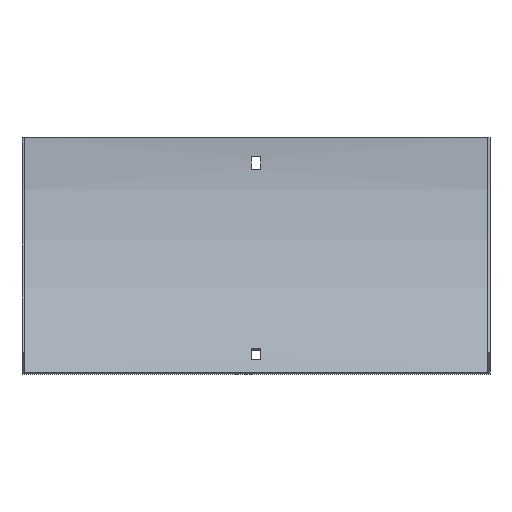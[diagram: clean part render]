
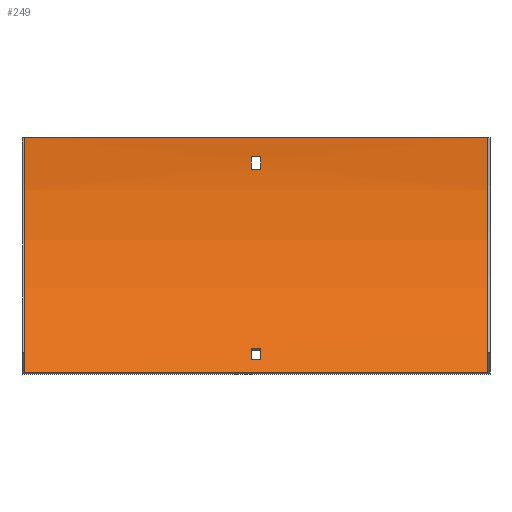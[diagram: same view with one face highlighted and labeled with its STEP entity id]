
A CAD part, front view. The second image highlights one B-rep face of the part: STEP entity #249.
In plain terms, the highlighted cylindrical face has radius 217.5 mm (diameter 435 mm), a partial arc.
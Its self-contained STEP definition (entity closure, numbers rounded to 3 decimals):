
#3 = AXIS2_PLACEMENT_3D ( 'NONE', #300, #63, #159 ) ;
#7 = VERTEX_POINT ( 'NONE', #327 ) ;
#16 = VERTEX_POINT ( 'NONE', #484 ) ;
#19 = VERTEX_POINT ( 'NONE', #110 ) ;
#22 = CARTESIAN_POINT ( 'NONE',  ( 153.5, -1.831, -12. ) ) ;
#27 = LINE ( 'NONE', #422, #273 ) ;
#29 = EDGE_CURVE ( 'NONE', #112, #299, #338, .T. ) ;
#31 = LINE ( 'NONE', #461, #193 ) ;
#35 = DIRECTION ( 'NONE',  ( 0., 0., 1. ) ) ;
#38 = CARTESIAN_POINT ( 'NONE',  ( 153.5, -219., 0. ) ) ;
#41 = CIRCLE ( 'NONE', #290, 217.5 ) ;
#49 = CARTESIAN_POINT ( 'NONE',  ( 3.25, -51.074, -138.228 ) ) ;
#50 = VERTEX_POINT ( 'NONE', #577 ) ;
#54 = EDGE_CURVE ( 'NONE', #352, #604, #571, .T. ) ;
#63 = DIRECTION ( 'NONE',  ( 1., 0., 0. ) ) ;
#71 = DIRECTION ( 'NONE',  ( -1., 0., 0. ) ) ;
#85 = DIRECTION ( 'NONE',  ( 1., 0., 0. ) ) ;
#86 = DIRECTION ( 'NONE',  ( -1., 0., 0. ) ) ;
#88 = DIRECTION ( 'NONE',  ( 1., 0., 0. ) ) ;
#92 = AXIS2_PLACEMENT_3D ( 'NONE', #597, #410, #411 ) ;
#94 = CARTESIAN_POINT ( 'NONE',  ( 3.25, -1.831, -12. ) ) ;
#104 = CARTESIAN_POINT ( 'NONE',  ( -3.25, -1.831, -12. ) ) ;
#110 = CARTESIAN_POINT ( 'NONE',  ( -3.25, -51.074, -138.228 ) ) ;
#112 = VERTEX_POINT ( 'NONE', #121 ) ;
#121 = CARTESIAN_POINT ( 'NONE',  ( 3.25, -2.516, -21. ) ) ;
#135 = CIRCLE ( 'NONE', #473, 217.5 ) ;
#143 = CIRCLE ( 'NONE', #301, 217.5 ) ;
#145 = ORIENTED_EDGE ( 'NONE', *, *, #54, .T. ) ;
#149 = CARTESIAN_POINT ( 'NONE',  ( 152., -65.204, -153.796 ) ) ;
#155 = EDGE_LOOP ( 'NONE', ( #468, #573, #377, #253 ) ) ;
#157 = LINE ( 'NONE', #478, #447 ) ;
#159 = DIRECTION ( 'NONE',  ( 0., 0., -1. ) ) ;
#164 = DIRECTION ( 'NONE',  ( -1., 0., 0. ) ) ;
#177 = FACE_BOUND ( 'NONE', #336, .T. ) ;
#182 = DIRECTION ( 'NONE',  ( -1., 0., 0. ) ) ;
#193 = VECTOR ( 'NONE', #85, 1000. ) ;
#196 = ORIENTED_EDGE ( 'NONE', *, *, #595, .T. ) ;
#206 = EDGE_CURVE ( 'NONE', #470, #112, #31, .T. ) ;
#213 = EDGE_CURVE ( 'NONE', #16, #19, #143, .T. ) ;
#221 = CARTESIAN_POINT ( 'NONE',  ( -3.25, -219., 0. ) ) ;
#222 = FACE_BOUND ( 'NONE', #360, .T. ) ;
#224 = VECTOR ( 'NONE', #86, 1000. ) ;
#229 = EDGE_CURVE ( 'NONE', #19, #352, #356, .T. ) ;
#240 = ORIENTED_EDGE ( 'NONE', *, *, #508, .F. ) ;
#248 = ORIENTED_EDGE ( 'NONE', *, *, #229, .T. ) ;
#249 = ADVANCED_FACE ( 'NONE', ( #177, #274, #222 ), #362, .F. ) ;
#253 = ORIENTED_EDGE ( 'NONE', *, *, #581, .T. ) ;
#254 = CARTESIAN_POINT ( 'NONE',  ( 3.25, -219., 0. ) ) ;
#258 = EDGE_CURVE ( 'NONE', #386, #470, #535, .T. ) ;
#273 = VECTOR ( 'NONE', #328, 1000. ) ;
#274 = FACE_OUTER_BOUND ( 'NONE', #155, .T. ) ;
#280 = DIRECTION ( 'NONE',  ( 0., 0., 1. ) ) ;
#290 = AXIS2_PLACEMENT_3D ( 'NONE', #313, #454, #567 ) ;
#294 = EDGE_CURVE ( 'NONE', #50, #7, #41, .T. ) ;
#299 = VERTEX_POINT ( 'NONE', #94 ) ;
#300 = CARTESIAN_POINT ( 'NONE',  ( 3.25, -219., 0. ) ) ;
#301 = AXIS2_PLACEMENT_3D ( 'NONE', #221, #551, #502 ) ;
#302 = VERTEX_POINT ( 'NONE', #149 ) ;
#312 = AXIS2_PLACEMENT_3D ( 'NONE', #38, #182, #35 ) ;
#313 = CARTESIAN_POINT ( 'NONE',  ( -152., -219., 0. ) ) ;
#321 = CARTESIAN_POINT ( 'NONE',  ( 153.5, -56.953, -145.076 ) ) ;
#323 = CARTESIAN_POINT ( 'NONE',  ( 152., -219., 0. ) ) ;
#326 = VECTOR ( 'NONE', #71, 1000. ) ;
#327 = CARTESIAN_POINT ( 'NONE',  ( -152., -1.5, 0. ) ) ;
#328 = DIRECTION ( 'NONE',  ( -1., 0., 0. ) ) ;
#336 = EDGE_LOOP ( 'NONE', ( #498, #240, #542, #385 ) ) ;
#338 = CIRCLE ( 'NONE', #3, 217.5 ) ;
#352 = VERTEX_POINT ( 'NONE', #49 ) ;
#354 = CARTESIAN_POINT ( 'NONE',  ( 152., -1.5, 0. ) ) ;
#356 = LINE ( 'NONE', #455, #427 ) ;
#360 = EDGE_LOOP ( 'NONE', ( #196, #390, #248, #145 ) ) ;
#362 = CYLINDRICAL_SURFACE ( 'NONE', #312, 217.5 ) ;
#371 = LINE ( 'NONE', #321, #224 ) ;
#377 = ORIENTED_EDGE ( 'NONE', *, *, #448, .T. ) ;
#385 = ORIENTED_EDGE ( 'NONE', *, *, #206, .F. ) ;
#386 = VERTEX_POINT ( 'NONE', #104 ) ;
#390 = ORIENTED_EDGE ( 'NONE', *, *, #213, .T. ) ;
#399 = AXIS2_PLACEMENT_3D ( 'NONE', #254, #480, #543 ) ;
#410 = DIRECTION ( 'NONE',  ( -1., 0., 0. ) ) ;
#411 = DIRECTION ( 'NONE',  ( 0., 0., 1. ) ) ;
#422 = CARTESIAN_POINT ( 'NONE',  ( 152., -1.5, 0. ) ) ;
#427 = VECTOR ( 'NONE', #499, 1000. ) ;
#447 = VECTOR ( 'NONE', #164, 1000. ) ;
#448 = EDGE_CURVE ( 'NONE', #302, #590, #135, .T. ) ;
#454 = DIRECTION ( 'NONE',  ( 1., 0., 0. ) ) ;
#455 = CARTESIAN_POINT ( 'NONE',  ( 153.5, -51.074, -138.228 ) ) ;
#461 = CARTESIAN_POINT ( 'NONE',  ( 153.5, -2.516, -21. ) ) ;
#468 = ORIENTED_EDGE ( 'NONE', *, *, #294, .F. ) ;
#470 = VERTEX_POINT ( 'NONE', #541 ) ;
#471 = EDGE_CURVE ( 'NONE', #302, #50, #157, .T. ) ;
#473 = AXIS2_PLACEMENT_3D ( 'NONE', #323, #88, #280 ) ;
#478 = CARTESIAN_POINT ( 'NONE',  ( 152., -65.204, -153.796 ) ) ;
#480 = DIRECTION ( 'NONE',  ( -1., 0., 0. ) ) ;
#481 = LINE ( 'NONE', #22, #326 ) ;
#484 = CARTESIAN_POINT ( 'NONE',  ( -3.25, -56.953, -145.076 ) ) ;
#498 = ORIENTED_EDGE ( 'NONE', *, *, #258, .F. ) ;
#499 = DIRECTION ( 'NONE',  ( 1., 0., 0. ) ) ;
#502 = DIRECTION ( 'NONE',  ( 0., 0., -1. ) ) ;
#508 = EDGE_CURVE ( 'NONE', #299, #386, #481, .T. ) ;
#535 = CIRCLE ( 'NONE', #92, 217.5 ) ;
#541 = CARTESIAN_POINT ( 'NONE',  ( -3.25, -2.516, -21. ) ) ;
#542 = ORIENTED_EDGE ( 'NONE', *, *, #29, .F. ) ;
#543 = DIRECTION ( 'NONE',  ( 0., 0., 1. ) ) ;
#551 = DIRECTION ( 'NONE',  ( 1., 0., 0. ) ) ;
#567 = DIRECTION ( 'NONE',  ( 0., 0., 1. ) ) ;
#571 = CIRCLE ( 'NONE', #399, 217.5 ) ;
#573 = ORIENTED_EDGE ( 'NONE', *, *, #471, .F. ) ;
#577 = CARTESIAN_POINT ( 'NONE',  ( -152., -65.204, -153.796 ) ) ;
#581 = EDGE_CURVE ( 'NONE', #590, #7, #27, .T. ) ;
#590 = VERTEX_POINT ( 'NONE', #354 ) ;
#595 = EDGE_CURVE ( 'NONE', #604, #16, #371, .T. ) ;
#597 = CARTESIAN_POINT ( 'NONE',  ( -3.25, -219., 0. ) ) ;
#604 = VERTEX_POINT ( 'NONE', #606 ) ;
#606 = CARTESIAN_POINT ( 'NONE',  ( 3.25, -56.953, -145.076 ) ) ;
